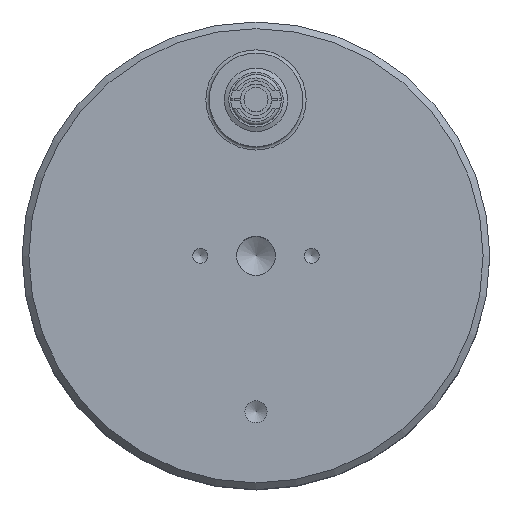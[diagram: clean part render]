
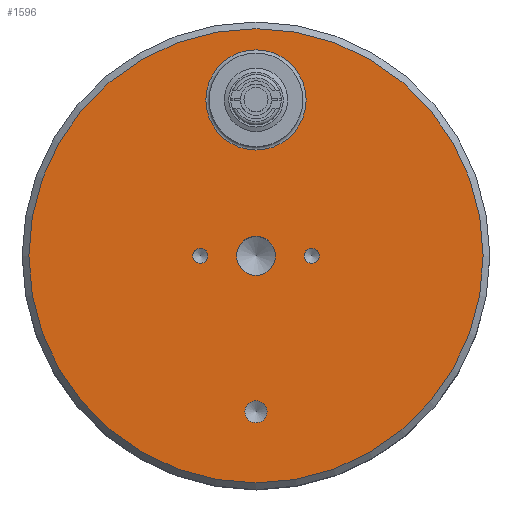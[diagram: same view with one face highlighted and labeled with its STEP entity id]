
A CAD part, top view. The second image highlights one B-rep face of the part: STEP entity #1596.
In plain terms, the highlighted planar face has unit normal (0, 0, 1).
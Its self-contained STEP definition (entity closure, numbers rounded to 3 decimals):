
#142=FACE_BOUND('',#526,.T.);
#143=FACE_BOUND('',#527,.T.);
#144=FACE_BOUND('',#528,.T.);
#145=FACE_BOUND('',#529,.T.);
#146=FACE_BOUND('',#530,.T.);
#407=FACE_OUTER_BOUND('',#525,.T.);
#525=EDGE_LOOP('',(#1229));
#526=EDGE_LOOP('',(#1230));
#527=EDGE_LOOP('',(#1231));
#528=EDGE_LOOP('',(#1232));
#529=EDGE_LOOP('',(#1233));
#530=EDGE_LOOP('',(#1234));
#656=CIRCLE('',#1786,22.5);
#658=CIRCLE('',#1790,102.);
#659=CIRCLE('',#1791,5.);
#660=CIRCLE('',#1792,3.39);
#661=CIRCLE('',#1793,3.39);
#662=CIRCLE('',#1794,8.76);
#775=VERTEX_POINT('',#2723);
#777=VERTEX_POINT('',#2731);
#778=VERTEX_POINT('',#2733);
#779=VERTEX_POINT('',#2735);
#780=VERTEX_POINT('',#2737);
#781=VERTEX_POINT('',#2739);
#942=EDGE_CURVE('',#775,#775,#656,.T.);
#945=EDGE_CURVE('',#777,#777,#658,.T.);
#946=EDGE_CURVE('',#778,#778,#659,.T.);
#947=EDGE_CURVE('',#779,#779,#660,.T.);
#948=EDGE_CURVE('',#780,#780,#661,.T.);
#949=EDGE_CURVE('',#781,#781,#662,.T.);
#1229=ORIENTED_EDGE('',*,*,#945,.F.);
#1230=ORIENTED_EDGE('',*,*,#946,.T.);
#1231=ORIENTED_EDGE('',*,*,#947,.T.);
#1232=ORIENTED_EDGE('',*,*,#948,.T.);
#1233=ORIENTED_EDGE('',*,*,#949,.T.);
#1234=ORIENTED_EDGE('',*,*,#942,.F.);
#1528=PLANE('',#1789);
#1596=ADVANCED_FACE('',(#407,#142,#143,#144,#145,#146),#1528,.T.);
#1786=AXIS2_PLACEMENT_3D('',#2725,#2130,#2131);
#1789=AXIS2_PLACEMENT_3D('',#2730,#2137,#2138);
#1790=AXIS2_PLACEMENT_3D('',#2732,#2139,#2140);
#1791=AXIS2_PLACEMENT_3D('',#2734,#2141,#2142);
#1792=AXIS2_PLACEMENT_3D('',#2736,#2143,#2144);
#1793=AXIS2_PLACEMENT_3D('',#2738,#2145,#2146);
#1794=AXIS2_PLACEMENT_3D('',#2740,#2147,#2148);
#2130=DIRECTION('center_axis',(0.,0.,1.));
#2131=DIRECTION('ref_axis',(-1.,0.,0.));
#2137=DIRECTION('center_axis',(0.,0.,1.));
#2138=DIRECTION('ref_axis',(1.,0.,0.));
#2139=DIRECTION('center_axis',(0.,0.,-1.));
#2140=DIRECTION('ref_axis',(-1.,0.,0.));
#2141=DIRECTION('center_axis',(0.,0.,-1.));
#2142=DIRECTION('ref_axis',(1.,0.,0.));
#2143=DIRECTION('center_axis',(0.,0.,-1.));
#2144=DIRECTION('ref_axis',(1.,0.,0.));
#2145=DIRECTION('center_axis',(0.,0.,-1.));
#2146=DIRECTION('ref_axis',(1.,0.,0.));
#2147=DIRECTION('center_axis',(0.,0.,-1.));
#2148=DIRECTION('ref_axis',(1.,0.,0.));
#2723=CARTESIAN_POINT('',(22.5,70.,100.));
#2725=CARTESIAN_POINT('Origin',(0.,70.,100.));
#2730=CARTESIAN_POINT('Origin',(0.,0.,100.));
#2731=CARTESIAN_POINT('',(102.,0.,100.));
#2732=CARTESIAN_POINT('Origin',(0.,0.,100.));
#2733=CARTESIAN_POINT('',(-5.,-70.,100.));
#2734=CARTESIAN_POINT('Origin',(0.,-70.,100.));
#2735=CARTESIAN_POINT('',(-28.39,0.,100.));
#2736=CARTESIAN_POINT('Origin',(-25.,0.,100.));
#2737=CARTESIAN_POINT('',(21.61,0.,100.));
#2738=CARTESIAN_POINT('Origin',(25.,0.,100.));
#2739=CARTESIAN_POINT('',(-8.76,0.,100.));
#2740=CARTESIAN_POINT('Origin',(0.,0.,100.));
